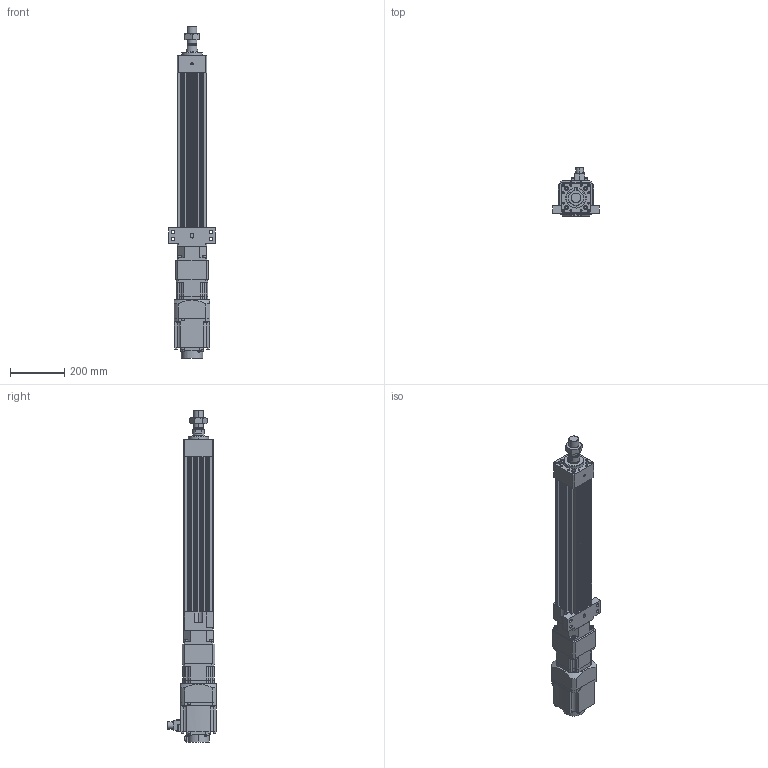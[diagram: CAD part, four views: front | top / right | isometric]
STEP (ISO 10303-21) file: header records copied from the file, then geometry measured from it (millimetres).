
FILE_DESCRIPTION (( 'STEP AP203' ), '1' );
FILE_NAME ('HES110NS(HS)-S400-W015G00-M-FFC.STEP', '2023-01-28T04:58:34', ( 'tms' ), ( '' ), 'SwSTEP 2.0', 'SolidWorks 2013', '' );
FILE_SCHEMA (( 'CONFIG_CONTROL_DESIGN' ));
Length unit declared in the file: millimetre
Products named in the file (8): M36X1.5P; AB1151; HES110 ROD M ST400; AB115-003[HG-SR152]; HG-SR152; P0401400706; HES110-S400-G120-FFC; HES110NS(HS)-S400-W015G00-M-FFC
Assembly tree (7 placements, depth 3):
  HES110NS(HS)-S400-W015G00-M-FFC
    HES110-S400-G120-FFC
    HES110 ROD M ST400
    M36X1.5P
    AB115-003[HG-SR152]
      AB1151
      P0401400706
    HG-SR152
Bounding box: 170 x 177.49 x 1221.5 mm (x, y, z)
Volume: 7853805.2 mm3; surface area: 1095925 mm2
Topology: 4 solids, 15 shells, 1222 faces, 3083 edges, 1988 vertices
Faces by surface type: plane 557, cylinder 549, cone 104, bspline 8, torus 4
Entity records: 38313 total; most frequent: CARTESIAN_POINT 7246, DIRECTION 6648, ORIENTED_EDGE 6070, EDGE_CURVE 3045, AXIS2_PLACEMENT_3D 2450, VERTEX_POINT 1988, LINE 1748, VECTOR 1748
